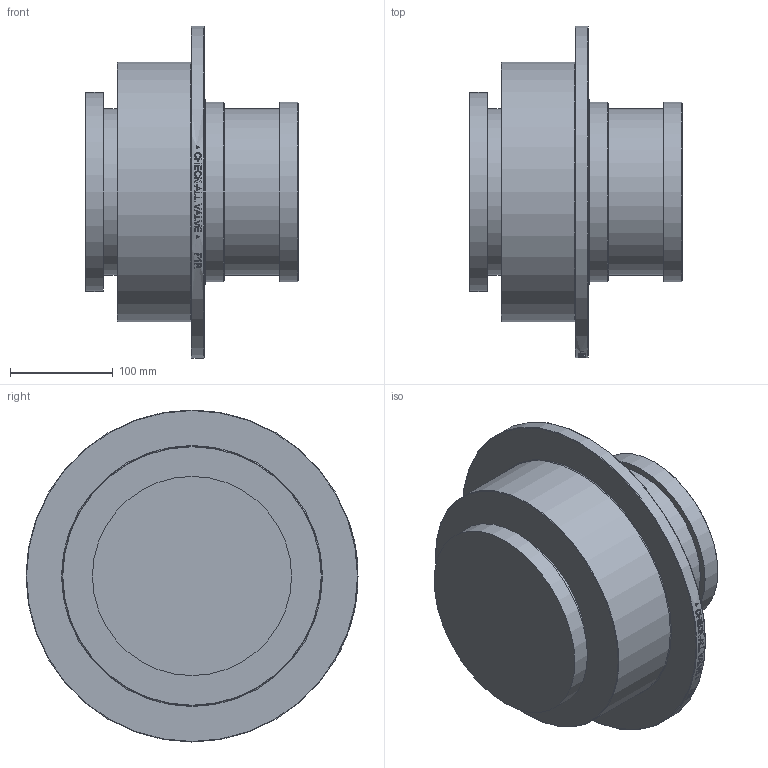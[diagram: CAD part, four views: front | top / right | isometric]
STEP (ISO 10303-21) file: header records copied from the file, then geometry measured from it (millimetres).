
FILE_DESCRIPTION( ( 'Unknown' ), '1' );
FILE_NAME( 'Y:/ENGR/3D Solid Edge Models/F1/F1 STEP/F1R.stp', 'Unknown', ( 'Unknown' ), ( 'Unknown' ), 'PSStep 14.0', 'Unknown', ' ' );
FILE_SCHEMA( ( 'AUTOMOTIVE_DESIGN { 1 0 10303 214 1 1 1 1 }' ) );
Length unit declared in the file: millimetre
Products named in the file (1): 1
Bounding box: 207.49 x 323.85 x 323.85 mm (x, y, z)
Volume: 7500377.1 mm3; surface area: 324076.1 mm2
Topology: 1 solids, 1 shells, 215 faces, 540 edges, 358 vertices
Faces by surface type: plane 130, bspline 47, cylinder 31, torus 4, cone 3
Full cylindrical faces by diameter (mm): 162.052 x2, 175.133 x2, 194.183 x1, 253.06 x1, 323.85 x1
Entity records: 10961 total; most frequent: CARTESIAN_POINT 5236, ORIENTED_EDGE 1052, EDGE_CURVE 526, B_SPLINE_CURVE_WITH_KNOTS 504, DIRECTION 382, VERTEX_POINT 358, EDGE_LOOP 260, FACE_OUTER_BOUND 226
